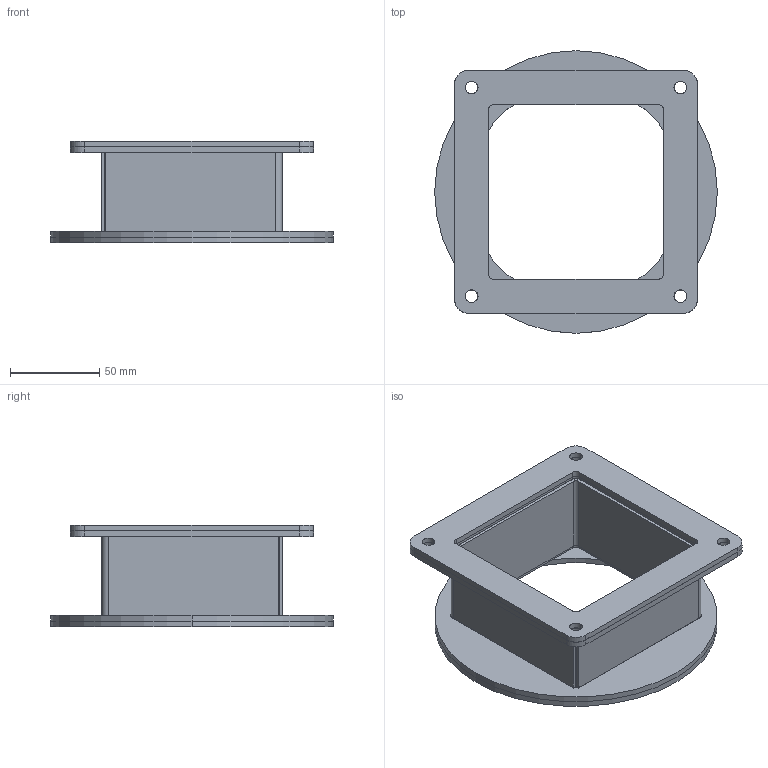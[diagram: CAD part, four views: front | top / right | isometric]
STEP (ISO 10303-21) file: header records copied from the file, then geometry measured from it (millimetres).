
FILE_DESCRIPTION (( 'STEP AP203' ), '1' );
FILE_NAME ('f44wsc.STEP', '2008-10-03T17:13:20', ( '' ), ( '' ), 'SwSTEP 2.0', 'SolidWorks 2007', '' );
FILE_SCHEMA (( 'CONFIG_CONTROL_DESIGN' ));
Length unit declared in the file: inch
Products named in the file (6): flange_1430200X_14302009; f44wsc; FxxWSA_SwivelFlange_4in; FxxWSA_Wrapper_4x4; 14304XXX_Gasket_14304005; Gasket_14115XXX_14115020
Assembly tree (5 placements, depth 2):
  f44wsc
    FxxWSA_SwivelFlange_4in
    flange_1430200X_14302009
    14304XXX_Gasket_14304005
    Gasket_14115XXX_14115020
    FxxWSA_Wrapper_4x4
Bounding box: 158.75 x 158.75 x 57.15 mm (x, y, z)
Volume: 143417.6 mm3; surface area: 118142.2 mm2
Topology: 5 solids, 5 shells, 100 faces, 246 edges, 156 vertices
Faces by surface type: plane 52, cylinder 48
Entity records: 3646 total; most frequent: DIRECTION 558, CARTESIAN_POINT 510, ORIENTED_EDGE 492, EDGE_CURVE 246, AXIS2_PLACEMENT_3D 204, VERTEX_POINT 156, LINE 150, VECTOR 150
